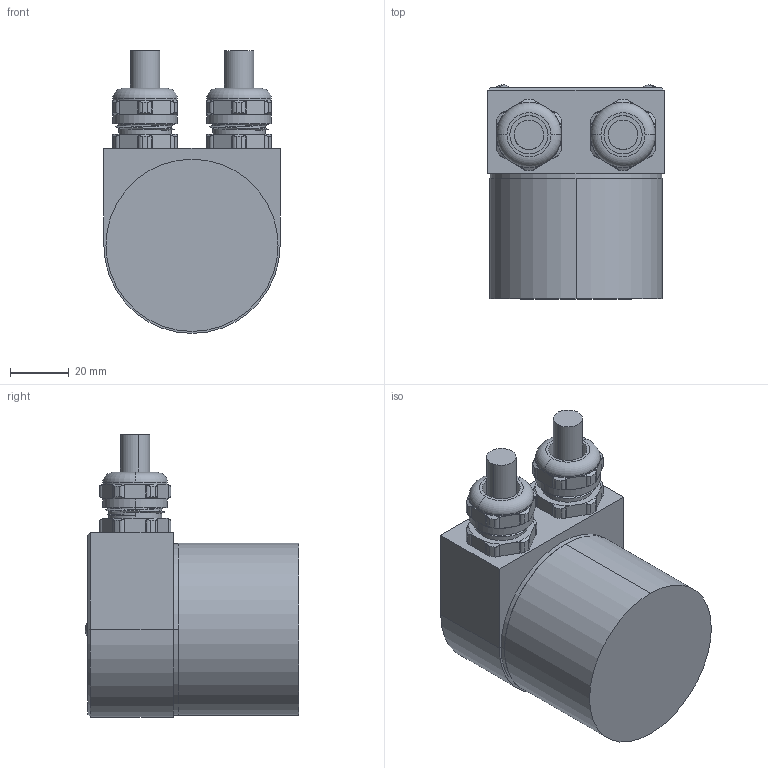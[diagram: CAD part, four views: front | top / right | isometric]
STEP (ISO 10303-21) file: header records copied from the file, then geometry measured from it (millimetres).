
FILE_DESCRIPTION (( 'STEP AP203' ), '1' );
FILE_NAME ('Drawing-OC-5-TC-430-SZM-HCCNNN-Y-H2M-N.STEP', '2013-10-08T08:56:09', ( 'Admin' ), ( 'Microsoft' ), 'SwSTEP 2.0', 'SolidWorks 2006104', '' );
FILE_SCHEMA (( 'CONFIG_CONTROL_DESIGN' ));
Products named in the file (1): Drawing-OC-5-TC-430-SZM-HCCNNN-Y-H2M-N
Bounding box: 60 x 72.8 x 96.27 mm (x, y, z)
Volume: 87527.9 mm3; surface area: 73389.1 mm2
Topology: 33 solids, 33 shells, 1828 faces, 4627 edges, 2980 vertices
Faces by surface type: plane 743, cylinder 575, bspline 226, cone 185, torus 99
Entity records: 76688 total; most frequent: CARTESIAN_POINT 33705, ORIENTED_EDGE 9234, DIRECTION 8352, EDGE_CURVE 4617, VERTEX_POINT 2980, AXIS2_PLACEMENT_3D 2952, VECTOR 2448, LINE 2448
